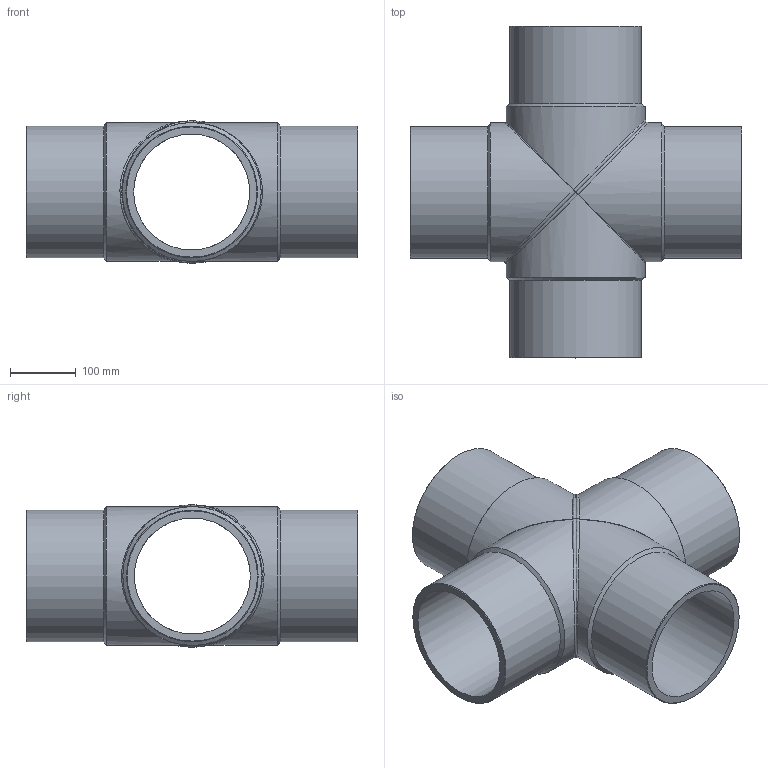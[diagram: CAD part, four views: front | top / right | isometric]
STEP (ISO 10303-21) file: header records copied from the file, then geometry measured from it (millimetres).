
FILE_DESCRIPTION(/* description */ ('Unknown'),/* implementation_level */ '2;1');
FILE_NAME(/* name */ 'CRP200B',/* time_stamp */ '2022-07-08T11:02:39+02:00',/* author */ ('Unknown'),/* organization */ ('Unknown'),/* preprocessor_version */ 'ST-DEVELOPER v18.102',/* originating_system */ 'Solid Edge',/* authorisation */ 'Unknown');
FILE_SCHEMA (('AUTOMOTIVE_DESIGN {1 0 10303 214 3 1 1}'));
Length unit declared in the file: millimetre
Products named in the file (3): CRP200B; CRP200B_mir
Assembly tree (2 placements, depth 2):
  CRP200B
    CRP200B
    CRP200B_mir
Bounding box: 504 x 504 x 215.99 mm (x, y, z)
Volume: 6351549.1 mm3; surface area: 973032.7 mm2
Topology: 2 solids, 2 shells, 32 faces, 88 edges, 58 vertices
Faces by surface type: cylinder 12, cone 8, plane 6, bspline 6
Full cylindrical faces by diameter (mm): 176.2 x4, 200 x4, 211 x4
Entity records: 3425 total; most frequent: CARTESIAN_POINT 2707, DIRECTION 126, ORIENTED_EDGE 116, AXIS2_PLACEMENT_3D 63, EDGE_CURVE 58, EDGE_LOOP 58, FACE_BOUND 58, VERTEX_POINT 48
